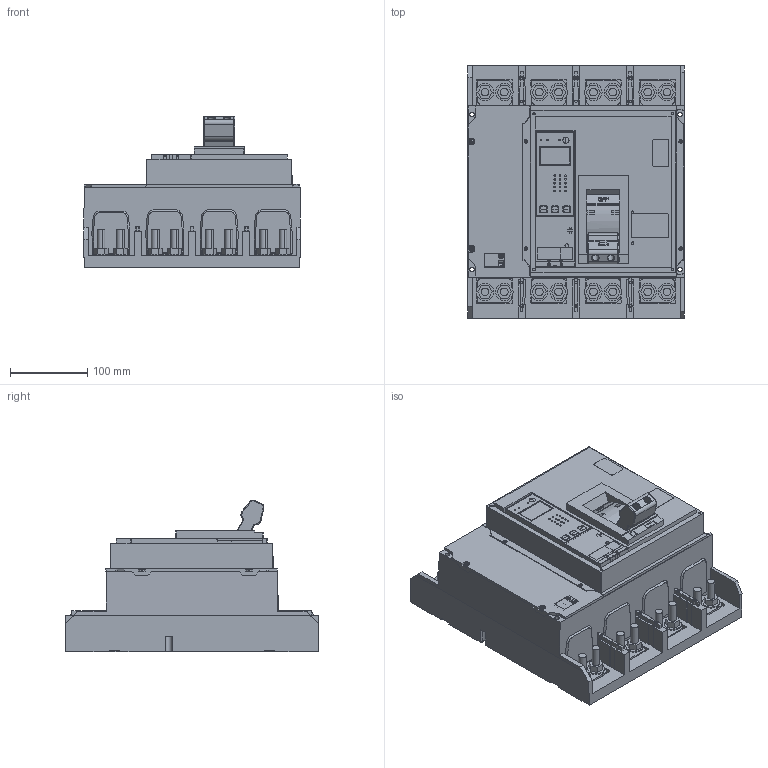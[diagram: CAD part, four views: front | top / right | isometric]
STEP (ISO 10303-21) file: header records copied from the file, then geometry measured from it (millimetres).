
FILE_DESCRIPTION((''),'2;1');
FILE_NAME('1669807021639_ASM','2022-11-30T16:47:26',('SESA621925'),('Schneider-Electric'),'CREO PARAMETRIC BY PTC INC, 2021284','CREO PARAMETRIC BY PTC INC, 2021284','');
FILE_SCHEMA(('AP242_MANAGED_MODEL_BASED_3D_ENGINEERING_MIM_LF { 1 0 10303 442 1 1 4 }'));
Products named in the file (14): EMPTYNODE_1669807021670_ASM; C063N420FM_1; 0444121500; C063N420FM_ASM; C063N420FM-3D_ASM; COVER-ASSY-C063N320FM_C_1; COVER-ASSY-C063N320FM-3D_ASM; HANDLE-ASSY-C063N320FM; HANDLE-ASSY-C063N320FM-3D_ASM; 35068; 0444320800_C; 35068_ASM; 35068-3D_ASM; 1669807021639_ASM
Assembly tree (13 placements, depth 4):
  1669807021639_ASM
    EMPTYNODE_1669807021670_ASM
    C063N420FM-3D_ASM
      C063N420FM_ASM
        C063N420FM_1
        0444121500
    COVER-ASSY-C063N320FM-3D_ASM
      COVER-ASSY-C063N320FM_C_1
    HANDLE-ASSY-C063N320FM-3D_ASM
      HANDLE-ASSY-C063N320FM
    35068-3D_ASM
      35068_ASM
        35068
        0444320800_C
Bounding box: 280 x 326.53 x 196.18 mm (x, y, z)
Volume: 7233271 mm3; surface area: 721583.6 mm2
Topology: 18 solids, 19 shells, 3329 faces, 9097 edges, 5988 vertices
Faces by surface type: plane 2442, cylinder 731, bspline 44, torus 42, extrusion 40, cone 22, sphere 8
Entity records: 148507 total; most frequent: CARTESIAN_POINT 22433, ORIENTED_EDGE 18178, DIRECTION 17026, PRESENTATION_STYLE_ASSIGNMENT 10261, STYLED_ITEM 9122, CURVE_STYLE 9089, EDGE_CURVE 9089, VECTOR 7010
